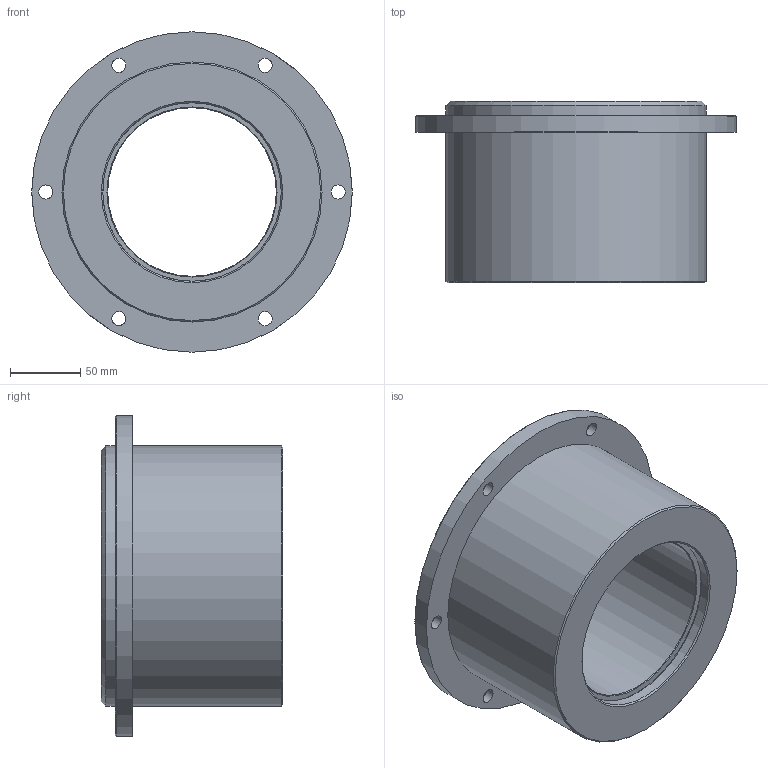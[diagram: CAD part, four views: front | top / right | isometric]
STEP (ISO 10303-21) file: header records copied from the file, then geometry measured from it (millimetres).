
FILE_DESCRIPTION(('STEP AP214'),'1');
FILE_NAME('C:/Projets/Serie 10.xx.xx/10.13.12.step','2011-11-10T15:53:49',(' '),(' '),'Spatial InterOp 3D',' ',' ');
FILE_SCHEMA(('automotive_design'));
Length unit declared in the file: metre
Products named in the file (3): boitier 12; rotule 12; 1
Bounding box: 228 x 129 x 228 mm (x, y, z)
Volume: 2000431.4 mm3; surface area: 298140.2 mm2
Topology: 2 solids, 2 shells, 60 faces, 2342 edges, 4094 vertices
Faces by surface type: cone 25, cylinder 19, plane 14, sphere 2
Full cylindrical faces by diameter (mm): 10 x6, 120 x1, 127 x1, 185 x2, 228 x1
Entity records: 28123 total; most frequent: CARTESIAN_POINT 2579, DIRECTION 2489, STYLED_ITEM 2247, PRESENTATION_STYLE_ASSIGNMENT 2247, COLOUR_RGB 2247, LINE 2205, VECTOR 2205, TRIMMED_CURVE 2187
